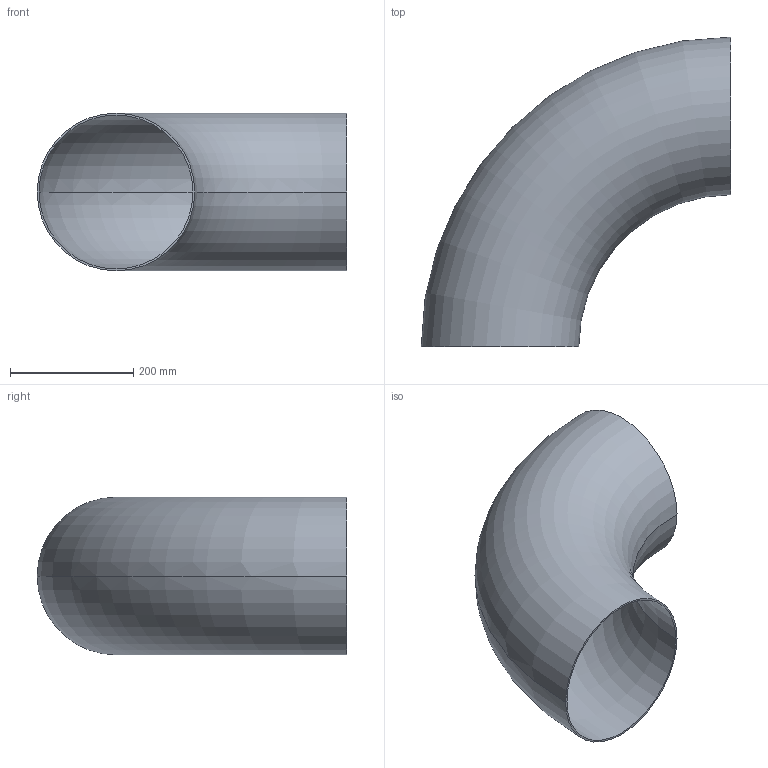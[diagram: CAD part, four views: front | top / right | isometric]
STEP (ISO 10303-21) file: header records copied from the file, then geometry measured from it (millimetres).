
FILE_DESCRIPTION (( 'STEP AP203' ), '1' );
FILE_NAME ('OT212-250-256x3_OSTP.step', '2020-12-16T03:10:32', ( '' ), ( '' ), 'SwSTEP 2.0', 'SolidWorks 2014', '' );
FILE_SCHEMA (( 'CONFIG_CONTROL_DESIGN' ));
Length unit declared in the file: millimetre
Products named in the file (1): OT212-250-256x3_OSTP
Bounding box: 503 x 503 x 256 mm (x, y, z)
Volume: 1404568.1 mm3; surface area: 941147.7 mm2
Topology: 1 solids, 1 shells, 6 faces, 12 edges, 8 vertices
Faces by surface type: torus 4, plane 2
Entity records: 249 total; most frequent: DIRECTION 38, CARTESIAN_POINT 27, ORIENTED_EDGE 24, AXIS2_PLACEMENT_3D 19, CIRCLE 12, EDGE_CURVE 12, VERTEX_POINT 8, EDGE_LOOP 8
